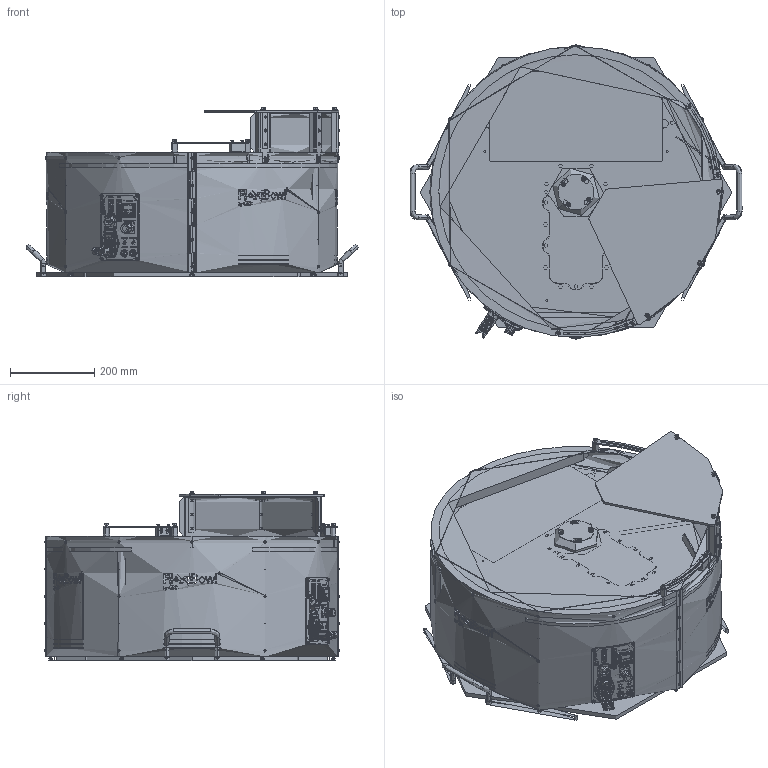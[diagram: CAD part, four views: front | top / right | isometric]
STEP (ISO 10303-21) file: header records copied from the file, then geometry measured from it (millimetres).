
FILE_DESCRIPTION (( 'STEP AP214' ), '1' );
FILE_NAME ('FB650CC.STEP', '2021-09-09T13:32:44', ( '' ), ( '' ), 'SwSTEP 2.0', 'SolidWorks 2020', '' );
FILE_SCHEMA (( 'AUTOMOTIVE_DESIGN' ));
Length unit declared in the file: millimetre
Products named in the file (72): CM000170; CM000478; PD001736; CE000013; FB650CC; CM000015_002; PD001741; CM000686_002; PD001360_FB650; CM000166; CM000008_003; PD001585; PD001061; CM000026; PD001583; CE000039; PD001425; CM000025; CM000006; CM000686; PD000032; PD001119; PD001794; CM000008_005; Copia di CE000327^CE000327; CM000035; PD001440; Copia di Led RDY_FLT^CE000326; PD001096; Copia di connector_amet-15rs^CE000302; CM000050; Copia di connector_a-ds_25_pp-f^CE000302; CE000007; PD001103; Copia di Connettore te 2 poli - Copia^CE000302; CM000001; Copia di 39-01-2025^CE000302; CM000027; CM000015_001; PD001356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
Assembly tree (204 placements, depth 3):
  FB650CC
    CM000032  x4
    CM000048  x28
    CM000031  x9
    CM000050  x3
    CM000170  x6
    CM000166  x8
    CM000642  x4
    CM000035  x6
    CM000027  x4
    CM000478  x9
    CM000091  x2
    CM000086  x15
    CM000051  x4
    CM000025  x4
    CM000043  x2
    CM000026  x10
    CM000024  x10
    CM000006  x4
    PD001096
    CM000001  x2
    PD001742
    PD001440  x6
    PD001741
    PD001736  x2
    PD001657
    PD001356
    PD000709
    PD001794
    PD000032
    PD001102
    PD001103
    PD001585  x3
    PD001583  x3
    PD001061
    PD000043  x4
    PD001121  x2
    PD001119  x2
    PD001425
    PD001426
    PD001360_FB650
    CE000007
    CM000015  x2
      CM000015_001
      CM000015_002
    CE000013  x2
    CE000005
    CM000008
      CM000008_001
      CM000008_003  x2
      CM000008_002
      CM000008_004
      CM000008_005
    CE000302
      Copia di connector_a-ds_25_pp-f^CE000302
      Copia di 15 poli femmina^CE000302
      Copia di connector_amet-15rs^CE000302
      Copia di Connettore te 2 poli - Copia^CE000302
      Copia di 39-01-2025^CE000302
    CM000686
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Bounding box: 787.87 x 698.4 x 402.5 mm (x, y, z)
Topology: 211 solids, 257 shells, 12164 faces, 31521 edges, 20240 vertices
Faces by surface type: plane 6256, cylinder 2661, bspline 1385, cone 1283, torus 539, sphere 40
Entity records: 438580 total; most frequent: CARTESIAN_POINT 169789, ORIENTED_EDGE 47931, DIRECTION 37015, EDGE_CURVE 24169, VERTEX_POINT 16073, AXIS2_PLACEMENT_3D 12826, LINE 11363, VECTOR 11363
